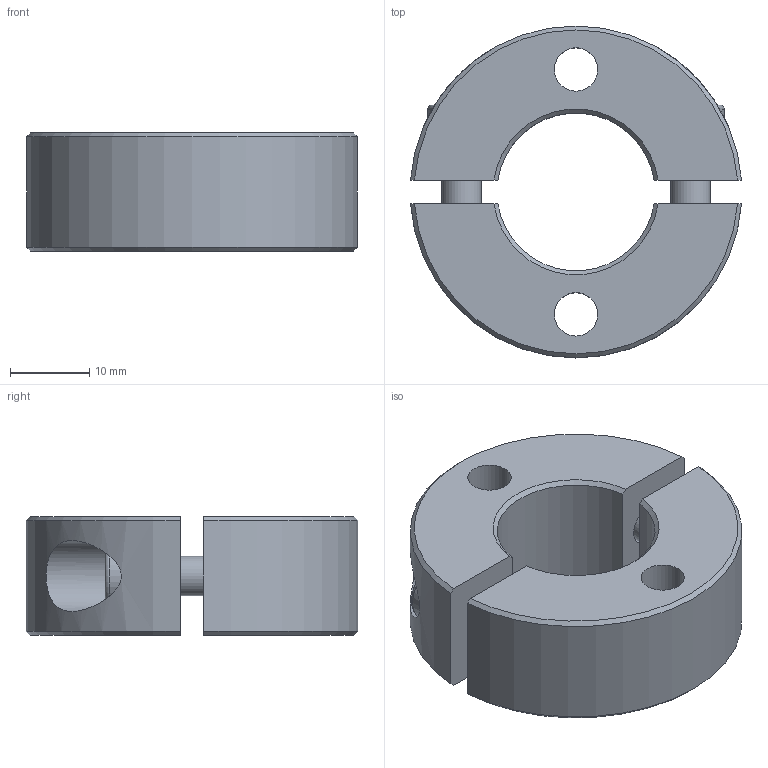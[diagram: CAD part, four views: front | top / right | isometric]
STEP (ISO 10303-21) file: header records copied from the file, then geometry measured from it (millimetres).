
FILE_DESCRIPTION( ( 'STEP AP203' ), '1' );
FILE_NAME( 'C:/Temp/Ganter_Step_05_03_2020/data/3_2/gn7072_2/Split Stainless Steel-Set collar GN 7072.2-42-B20-NI-A.stp', '2020-03-13T05:40:51', ( 'License CC BY-ND 4.0' ), ( 'CADENAS' ), ' ', 'PARTsolutions', ' ' );
FILE_SCHEMA( ( 'CONFIG_CONTROL_DESIGN' ) );
Length unit declared in the file: millimetre
Products named in the file (1): _Split Stainless Steel-Set collar GN 7072.2-42-B20-NI-A
Bounding box: 41.89 x 42 x 15 mm (x, y, z)
Volume: 13764.8 mm3; surface area: 6799.9 mm2
Topology: 1 solids, 1 shells, 52 faces, 124 edges, 84 vertices
Faces by surface type: plane 28, cylinder 14, cone 8, torus 2
Full cylindrical faces by diameter (mm): 5 x2, 5.4 x2, 5.5 x2, 8.5 x2, 9 x2
Entity records: 1624 total; most frequent: CARTESIAN_POINT 439, DIRECTION 230, ORIENTED_EDGE 212, EDGE_CURVE 106, AXIS2_PLACEMENT_3D 89, EDGE_LOOP 80, VERTEX_POINT 78, FACE_OUTER_BOUND 64
